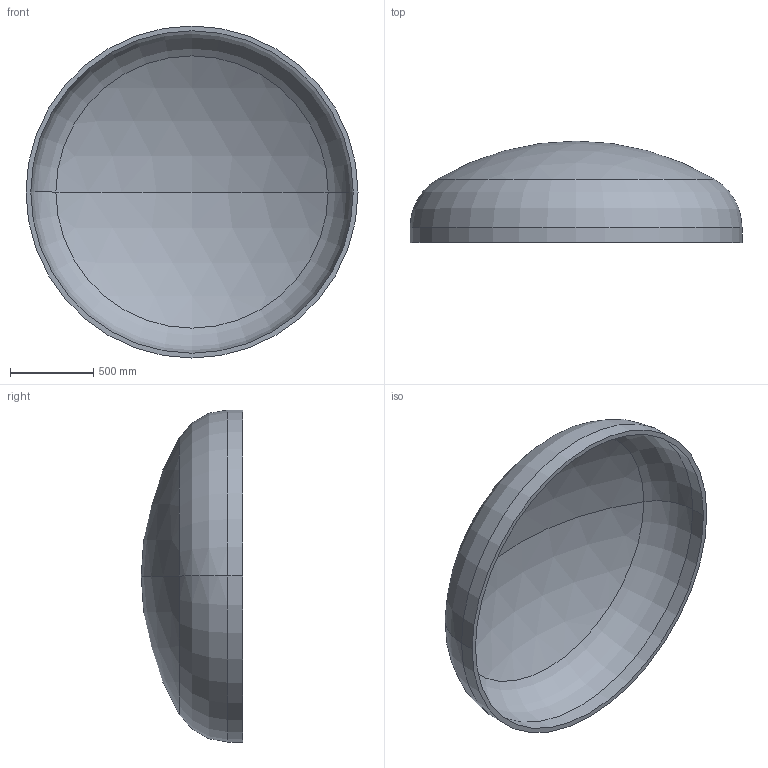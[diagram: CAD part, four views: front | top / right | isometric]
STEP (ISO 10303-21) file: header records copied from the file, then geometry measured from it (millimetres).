
FILE_DESCRIPTION (( 'STEP AP203' ), '1' );
FILE_NAME ('DIN 28013 Korbbogenform_-_Boden DIN 28013 - 2000 x 90 - I - s=29.step', '2016-07-01T13:45:49', ( '' ), ( '' ), 'SwSTEP 2.0', 'SolidWorks 2013', '' );
FILE_SCHEMA (( 'CONFIG_CONTROL_DESIGN' ));
Length unit declared in the file: millimetre
Products named in the file (1): DIN 28013 Korbbogenform_-_Boden DIN 28013 - 2000 x 90 - I - s=29
Bounding box: 2000 x 611.22 x 2000 mm (x, y, z)
Volume: 140106856.4 mm3; surface area: 9843870.2 mm2
Topology: 1 solids, 1 shells, 13 faces, 24 edges, 14 vertices
Faces by surface type: torus 4, cylinder 4, sphere 4, plane 1
Entity records: 407 total; most frequent: DIRECTION 72, CARTESIAN_POINT 52, ORIENTED_EDGE 48, AXIS2_PLACEMENT_3D 34, EDGE_CURVE 24, CIRCLE 20, EDGE_LOOP 14, VERTEX_POINT 14
